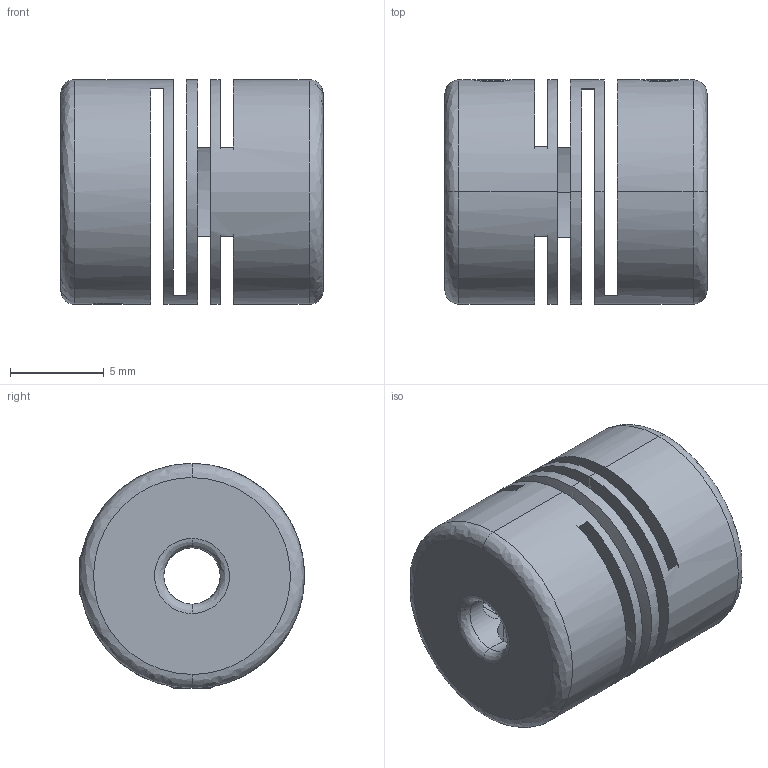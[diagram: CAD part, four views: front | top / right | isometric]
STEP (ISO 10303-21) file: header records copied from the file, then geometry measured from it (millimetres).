
FILE_DESCRIPTION (( 'STEP AP203' ), '1' );
FILE_NAME ('FAMM-S12.STEP', '2008-04-19T05:45:16', ( 'user' ), ( '' ), 'SwSTEP 2.0', 'SolidWorks 2007', '' );
FILE_SCHEMA (( 'CONFIG_CONTROL_DESIGN' ));
Length unit declared in the file: millimetre
Products named in the file (1): FAMM-S12
Bounding box: 14 x 12 x 12 mm (x, y, z)
Surface area: 1492 mm2 (no closed solid volume)
Topology: 0 solids, 5 shells, 82 faces, 237 edges, 153 vertices
Faces by surface type: plane 31, cone 25, cylinder 14, bspline 12
Entity records: 4153 total; most frequent: CARTESIAN_POINT 2022, ORIENTED_EDGE 424, DIRECTION 395, EDGE_CURVE 235, VERTEX_POINT 153, AXIS2_PLACEMENT_3D 139, VECTOR 117, LINE 117
